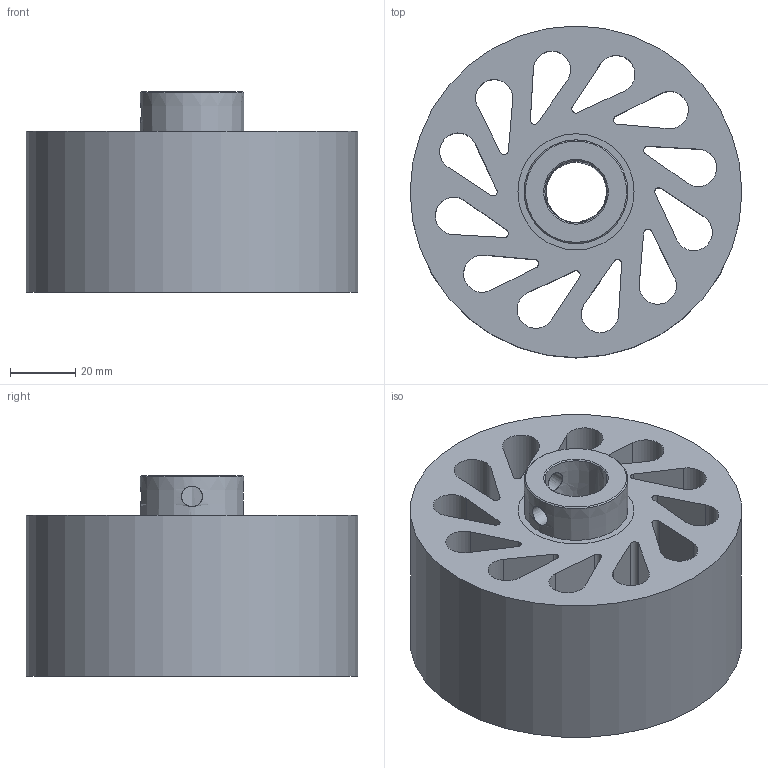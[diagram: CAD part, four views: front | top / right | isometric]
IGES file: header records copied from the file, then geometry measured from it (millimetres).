
Global section: file name: No Iges File Name specified; native system: AutoDesk Inventor R6.0; preprocessor: AutoDesk Inventor Iges Exporter R6.0; author: No Author specified; organization: No Organization specified; date: 20080103.170715; units: inch
Bounding box: 101.6 x 101.6 x 61.47 mm (x, y, z)
Surface area: 86002.1 mm2 (no closed solid volume)
Topology: 0 solids, 0 shells, 66 faces, 341 edges, 329 vertices
Faces by surface type: revolution 35, plane 30, bspline 1
